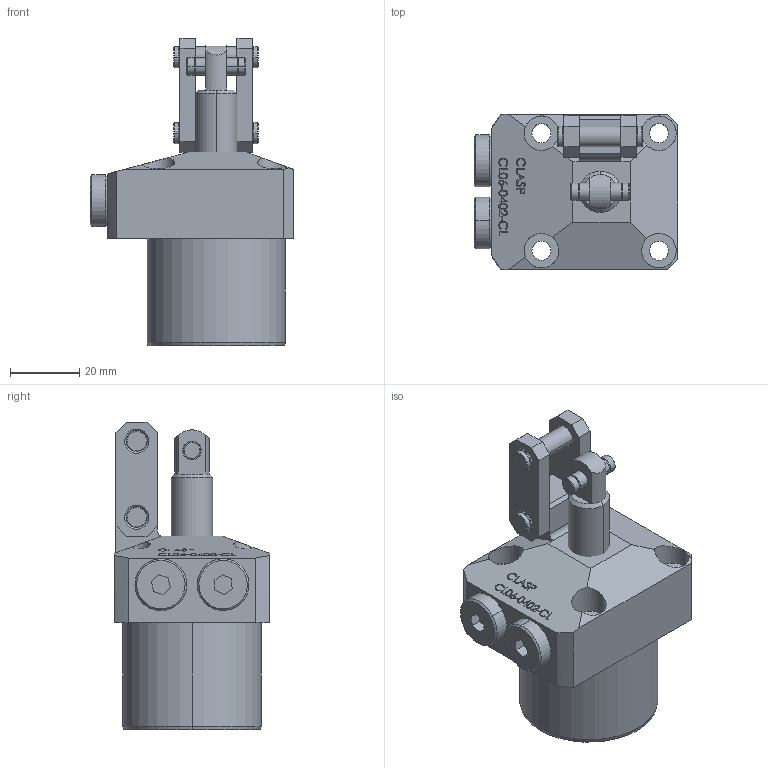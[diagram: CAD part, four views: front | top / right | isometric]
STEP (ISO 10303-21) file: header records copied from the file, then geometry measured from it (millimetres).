
FILE_DESCRIPTION (( 'STEP AP203' ), '1' );
FILE_NAME ('CLO6-0402 c;l.STEP', '2022-07-05T17:20:09', ( '' ), ( '' ), 'SwSTEP 2.0', 'SolidWorks 2017', '' );
FILE_SCHEMA (( 'CONFIG_CONTROL_DESIGN' ));
Length unit declared in the file: millimetre
Products named in the file (7): CLO6-0402 Part3 cl; CLO6-0402 Part2 cl; CLO6-0402 Part5 cl; CLO6-0402 Part6 cl; CLO6-0402 Part7 cl; CLO6-0402 c;l; CLO6-0402 Part1 cl
Assembly tree (9 placements, depth 2):
  CLO6-0402 c;l
    CLO6-0402 Part1 cl
    CLO6-0402 Part3 cl
    CLO6-0402 Part2 cl  x2
    CLO6-0402 Part5 cl  x2
    CLO6-0402 Part6 cl  x2
    CLO6-0402 Part7 cl
Bounding box: 59 x 45 x 89 mm (x, y, z)
Volume: 98474.1 mm3; surface area: 24199.6 mm2
Topology: 9 solids, 9 shells, 414 faces, 1001 edges, 647 vertices
Faces by surface type: plane 189, bspline 90, cylinder 87, cone 48
Entity records: 16921 total; most frequent: CARTESIAN_POINT 8166, ORIENTED_EDGE 1750, DIRECTION 1390, EDGE_CURVE 875, VERTEX_POINT 571, VECTOR 516, LINE 516, AXIS2_PLACEMENT_3D 437
